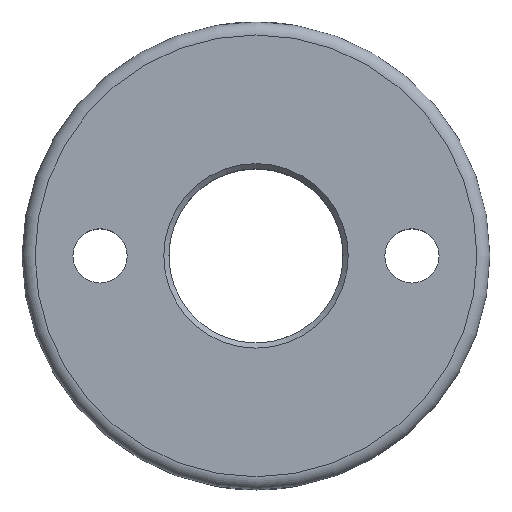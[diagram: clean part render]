
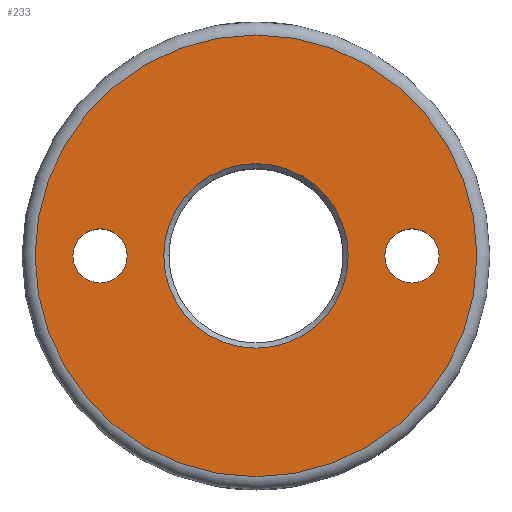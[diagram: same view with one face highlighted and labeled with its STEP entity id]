
A CAD part, top view. The second image highlights one B-rep face of the part: STEP entity #233.
In plain terms, the highlighted planar face has unit normal (0, 0, 1).
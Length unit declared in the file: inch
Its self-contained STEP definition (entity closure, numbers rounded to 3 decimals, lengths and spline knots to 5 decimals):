
#18=PLANE('',#266);
#24=FACE_BOUND('',#65,.T.);
#25=FACE_BOUND('',#66,.T.);
#26=FACE_BOUND('',#67,.T.);
#47=FACE_OUTER_BOUND('',#64,.T.);
#64=EDGE_LOOP('',(#183));
#65=EDGE_LOOP('',(#184));
#66=EDGE_LOOP('',(#185));
#67=EDGE_LOOP('',(#186));
#99=CIRCLE('',#265,0.1775);
#100=CIRCLE('',#267,0.425);
#101=CIRCLE('',#268,0.0522);
#102=CIRCLE('',#269,0.0522);
#119=VERTEX_POINT('',#444);
#120=VERTEX_POINT('',#448);
#121=VERTEX_POINT('',#450);
#122=VERTEX_POINT('',#452);
#143=EDGE_CURVE('',#119,#119,#99,.T.);
#145=EDGE_CURVE('',#120,#120,#100,.T.);
#146=EDGE_CURVE('',#121,#121,#101,.T.);
#147=EDGE_CURVE('',#122,#122,#102,.T.);
#183=ORIENTED_EDGE('',*,*,#145,.F.);
#184=ORIENTED_EDGE('',*,*,#146,.F.);
#185=ORIENTED_EDGE('',*,*,#147,.F.);
#186=ORIENTED_EDGE('',*,*,#143,.F.);
#233=ADVANCED_FACE('',(#47,#24,#25,#26),#18,.F.);
#265=AXIS2_PLACEMENT_3D('',#445,#307,#308);
#266=AXIS2_PLACEMENT_3D('',#447,#310,#311);
#267=AXIS2_PLACEMENT_3D('',#449,#312,#313);
#268=AXIS2_PLACEMENT_3D('',#451,#314,#315);
#269=AXIS2_PLACEMENT_3D('',#453,#316,#317);
#307=DIRECTION('center_axis',(0.,0.,1.));
#308=DIRECTION('ref_axis',(1.,0.,0.));
#310=DIRECTION('center_axis',(0.,0.,-1.));
#311=DIRECTION('ref_axis',(1.,0.,0.));
#312=DIRECTION('center_axis',(0.,0.,-1.));
#313=DIRECTION('ref_axis',(1.,0.,0.));
#314=DIRECTION('center_axis',(0.,0.,1.));
#315=DIRECTION('ref_axis',(1.,0.,0.));
#316=DIRECTION('center_axis',(0.,0.,1.));
#317=DIRECTION('ref_axis',(1.,0.,0.));
#444=CARTESIAN_POINT('',(-0.1775,0.,0.275));
#445=CARTESIAN_POINT('Origin',(0.,0.,
0.275));
#447=CARTESIAN_POINT('Origin',(0.,0.,
0.275));
#448=CARTESIAN_POINT('',(0.,-0.425,0.275));
#449=CARTESIAN_POINT('Origin',(0.,0.,
0.275));
#450=CARTESIAN_POINT('',(0.2478,0.,0.275));
#451=CARTESIAN_POINT('Origin',(0.3,0.,0.275));
#452=CARTESIAN_POINT('',(-0.3522,0.,0.275));
#453=CARTESIAN_POINT('Origin',(-0.3,0.,0.275));
